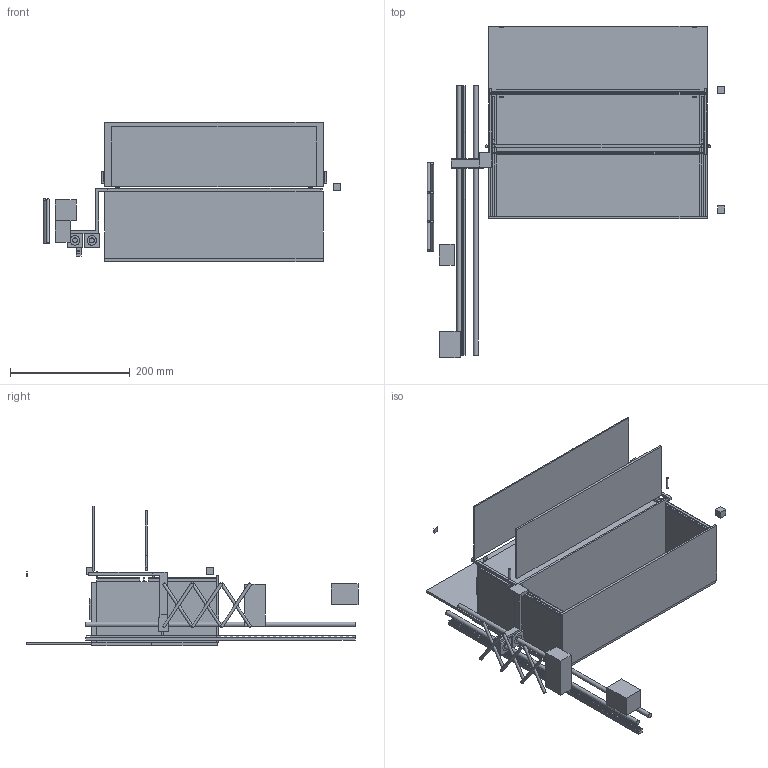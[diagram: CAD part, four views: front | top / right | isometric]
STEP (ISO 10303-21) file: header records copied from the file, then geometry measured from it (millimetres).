
FILE_DESCRIPTION(('FreeCAD Model'),'2;1');
FILE_NAME('Open CASCADE Shape Model','2026-10-19T11:27:18',('FreeCAD'),( 'FreeCAD'),'Open CASCADE STEP processor 7.8','FreeCAD','Unknown');
FILE_SCHEMA(('AUTOMOTIVE_DESIGN { 1 0 10303 214 1 1 1 1 }'));
Length unit declared in the file: millimetre
Products named in the file (1): Open CASCADE STEP translator 7.8 19
Bounding box: 498 x 555 x 234 mm (x, y, z)
Volume: 4965071.4 mm3; surface area: 937028.6 mm2
Topology: 33 solids, 33 shells, 1164 faces, 3291 edges, 2194 vertices
Faces by surface type: plane 1148, cylinder 16
Full cylindrical faces by diameter (mm): 4 x2, 5 x6, 8 x2, 8.5 x2, 16 x4
Entity records: 36869 total; most frequent: CARTESIAN_POINT 6650, ORIENTED_EDGE 6582, DIRECTION 5653, EDGE_CURVE 3291, LINE 3259, VECTOR 3259, VERTEX_POINT 2194, AXIS2_PLACEMENT_3D 1197
